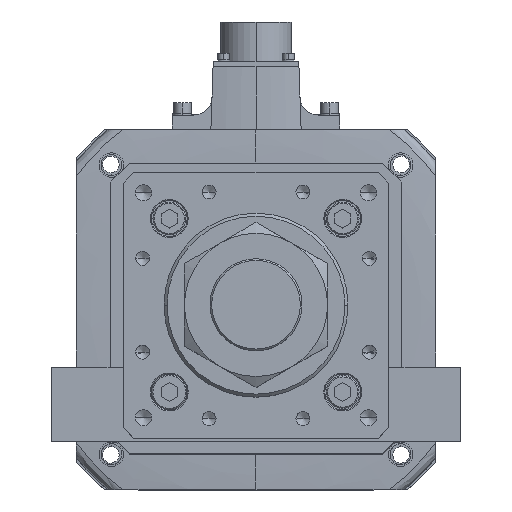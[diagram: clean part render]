
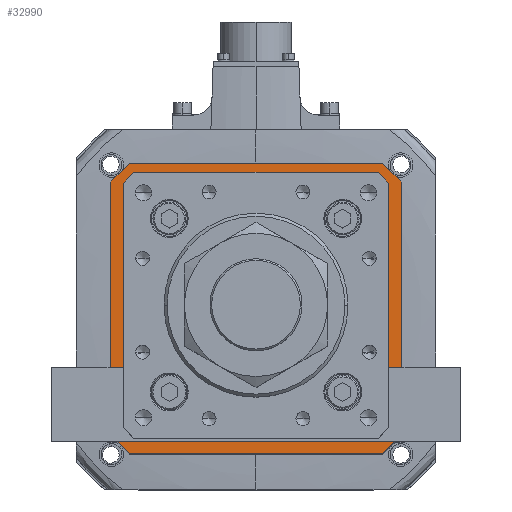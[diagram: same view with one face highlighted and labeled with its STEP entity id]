
A CAD part, top view. The second image highlights one B-rep face of the part: STEP entity #32990.
In plain terms, the highlighted planar face has unit normal (0, 0, 1).
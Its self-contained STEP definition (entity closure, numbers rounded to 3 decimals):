
#120 = VECTOR ( 'NONE', #2795, 1000. ) ;
#249 = DIRECTION ( 'NONE',  ( -0.707, -0.707, 0. ) ) ;
#910 = EDGE_CURVE ( 'NONE', #51259, #41335, #16077, .T. ) ;
#1837 = CARTESIAN_POINT ( 'NONE',  ( -62., -71., -142. ) ) ;
#2795 = DIRECTION ( 'NONE',  ( 0., -1., 0. ) ) ;
#2799 = VERTEX_POINT ( 'NONE', #30353 ) ;
#2827 = EDGE_CURVE ( 'NONE', #2799, #21133, #4464, .T. ) ;
#3158 = VECTOR ( 'NONE', #17133, 1000. ) ;
#3368 = ORIENTED_EDGE ( 'NONE', *, *, #25759, .F. ) ;
#3417 = LINE ( 'NONE', #41876, #4061 ) ;
#3501 = CARTESIAN_POINT ( 'NONE',  ( 60.896, 60.896, -142. ) ) ;
#4061 = VECTOR ( 'NONE', #46193, 1000. ) ;
#4102 = ORIENTED_EDGE ( 'NONE', *, *, #32423, .T. ) ;
#4359 = VERTEX_POINT ( 'NONE', #13631 ) ;
#4464 = LINE ( 'NONE', #38703, #13224 ) ;
#5958 = VECTOR ( 'NONE', #27710, 1000. ) ;
#6494 = VERTEX_POINT ( 'NONE', #39843 ) ;
#7726 = VERTEX_POINT ( 'NONE', #44391 ) ;
#7756 = DIRECTION ( 'NONE',  ( 0.707, 0.707, 0. ) ) ;
#8461 = LINE ( 'NONE', #20606, #32814 ) ;
#8659 = CARTESIAN_POINT ( 'NONE',  ( 62., 71., -142. ) ) ;
#9077 = CARTESIAN_POINT ( 'NONE',  ( 60.896, -60.896, -142. ) ) ;
#9518 = DIRECTION ( 'NONE',  ( 0., 0., 1. ) ) ;
#9858 = DIRECTION ( 'NONE',  ( 0.707, -0.707, 0. ) ) ;
#10055 = LINE ( 'NONE', #53864, #12054 ) ;
#11074 = EDGE_CURVE ( 'NONE', #26699, #2799, #3417, .T. ) ;
#11638 = CARTESIAN_POINT ( 'NONE',  ( 63., 0., -142. ) ) ;
#12012 = DIRECTION ( 'NONE',  ( 0.707, 0.707, 0. ) ) ;
#12054 = VECTOR ( 'NONE', #36939, 1000. ) ;
#12446 = LINE ( 'NONE', #39292, #33375 ) ;
#12713 = LINE ( 'NONE', #51266, #49214 ) ;
#13224 = VECTOR ( 'NONE', #21110, 1000. ) ;
#13631 = CARTESIAN_POINT ( 'NONE',  ( -63., -58.793, -142. ) ) ;
#13892 = ORIENTED_EDGE ( 'NONE', *, *, #36226, .F. ) ;
#15386 = ORIENTED_EDGE ( 'NONE', *, *, #24913, .T. ) ;
#16077 = LINE ( 'NONE', #3501, #35032 ) ;
#16432 = DIRECTION ( 'NONE',  ( -0.707, 0.707, 0. ) ) ;
#16693 = LINE ( 'NONE', #33474, #55173 ) ;
#17133 = DIRECTION ( 'NONE',  ( -1., 0., 0. ) ) ;
#17396 = CARTESIAN_POINT ( 'NONE',  ( 71., -62., -142. ) ) ;
#17755 = CARTESIAN_POINT ( 'NONE',  ( 58.793, -63., -142. ) ) ;
#18454 = ORIENTED_EDGE ( 'NONE', *, *, #28436, .F. ) ;
#18952 = CARTESIAN_POINT ( 'NONE',  ( 71., 62., -142. ) ) ;
#19502 = FACE_OUTER_BOUND ( 'NONE', #45431, .T. ) ;
#20606 = CARTESIAN_POINT ( 'NONE',  ( -60.896, -60.896, -142. ) ) ;
#21031 = EDGE_CURVE ( 'NONE', #37594, #26699, #40358, .T. ) ;
#21110 = DIRECTION ( 'NONE',  ( 0., 1., 0. ) ) ;
#21133 = VERTEX_POINT ( 'NONE', #50382 ) ;
#21235 = VERTEX_POINT ( 'NONE', #8659 ) ;
#21361 = VERTEX_POINT ( 'NONE', #17755 ) ;
#22201 = CARTESIAN_POINT ( 'NONE',  ( 63., 58.793, -142. ) ) ;
#22783 = EDGE_LOOP ( 'NONE', ( #23528, #22936, #15386, #51503, #43598, #24098, #4102, #31128 ) ) ;
#22936 = ORIENTED_EDGE ( 'NONE', *, *, #40271, .T. ) ;
#23528 = ORIENTED_EDGE ( 'NONE', *, *, #48372, .T. ) ;
#24098 = ORIENTED_EDGE ( 'NONE', *, *, #39569, .T. ) ;
#24913 = EDGE_CURVE ( 'NONE', #21361, #35288, #55956, .T. ) ;
#24957 = VECTOR ( 'NONE', #30255, 1000. ) ;
#25759 = EDGE_CURVE ( 'NONE', #21133, #7726, #16693, .T. ) ;
#26077 = VECTOR ( 'NONE', #12012, 1000. ) ;
#26607 = LINE ( 'NONE', #17396, #36764 ) ;
#26699 = VERTEX_POINT ( 'NONE', #1837 ) ;
#27278 = EDGE_CURVE ( 'NONE', #35288, #4359, #8461, .T. ) ;
#27710 = DIRECTION ( 'NONE',  ( 0., -1., 0. ) ) ;
#28406 = VERTEX_POINT ( 'NONE', #30191 ) ;
#28436 = EDGE_CURVE ( 'NONE', #7726, #21235, #12446, .T. ) ;
#30191 = CARTESIAN_POINT ( 'NONE',  ( 71., -62., -142. ) ) ;
#30255 = DIRECTION ( 'NONE',  ( -1., 0., 0. ) ) ;
#30343 = CARTESIAN_POINT ( 'NONE',  ( 58.793, 63., -142. ) ) ;
#30353 = CARTESIAN_POINT ( 'NONE',  ( -71., -62., -142. ) ) ;
#30591 = ORIENTED_EDGE ( 'NONE', *, *, #11074, .F. ) ;
#30695 = PLANE ( 'NONE',  #36958 ) ;
#30736 = CARTESIAN_POINT ( 'NONE',  ( 62., -71., -142. ) ) ;
#31128 = ORIENTED_EDGE ( 'NONE', *, *, #910, .T. ) ;
#31248 = VERTEX_POINT ( 'NONE', #35419 ) ;
#31411 = VERTEX_POINT ( 'NONE', #18952 ) ;
#31739 = ORIENTED_EDGE ( 'NONE', *, *, #2827, .F. ) ;
#32423 = EDGE_CURVE ( 'NONE', #6494, #51259, #10055, .T. ) ;
#32814 = VECTOR ( 'NONE', #16432, 1000. ) ;
#32990 = ADVANCED_FACE ( 'NONE', ( #48488, #19502 ), #30695, .T. ) ;
#33375 = VECTOR ( 'NONE', #35131, 1000. ) ;
#33474 = CARTESIAN_POINT ( 'NONE',  ( -62., 71., -142. ) ) ;
#34062 = CARTESIAN_POINT ( 'NONE',  ( 0., -63., -142. ) ) ;
#34908 = VERTEX_POINT ( 'NONE', #39533 ) ;
#35032 = VECTOR ( 'NONE', #46342, 1000. ) ;
#35131 = DIRECTION ( 'NONE',  ( 1., 0., 0. ) ) ;
#35288 = VERTEX_POINT ( 'NONE', #41676 ) ;
#35419 = CARTESIAN_POINT ( 'NONE',  ( -63., 58.793, -142. ) ) ;
#36226 = EDGE_CURVE ( 'NONE', #28406, #37594, #26607, .T. ) ;
#36764 = VECTOR ( 'NONE', #249, 1000. ) ;
#36939 = DIRECTION ( 'NONE',  ( 1., 0., 0. ) ) ;
#36958 = AXIS2_PLACEMENT_3D ( 'NONE', #48034, #9518, #44097 ) ;
#37574 = LINE ( 'NONE', #50473, #26077 ) ;
#37594 = VERTEX_POINT ( 'NONE', #51457 ) ;
#38031 = EDGE_CURVE ( 'NONE', #31411, #28406, #42366, .T. ) ;
#38682 = LINE ( 'NONE', #11638, #120 ) ;
#38703 = CARTESIAN_POINT ( 'NONE',  ( -71., 62., -142. ) ) ;
#39292 = CARTESIAN_POINT ( 'NONE',  ( 62., 71., -142. ) ) ;
#39339 = DIRECTION ( 'NONE',  ( -0.707, -0.707, 0. ) ) ;
#39533 = CARTESIAN_POINT ( 'NONE',  ( 63., -58.793, -142. ) ) ;
#39569 = EDGE_CURVE ( 'NONE', #31248, #6494, #37574, .T. ) ;
#39843 = CARTESIAN_POINT ( 'NONE',  ( -58.793, 63., -142. ) ) ;
#40271 = EDGE_CURVE ( 'NONE', #34908, #21361, #44934, .T. ) ;
#40358 = LINE ( 'NONE', #30736, #3158 ) ;
#41335 = VERTEX_POINT ( 'NONE', #22201 ) ;
#41676 = CARTESIAN_POINT ( 'NONE',  ( -58.793, -63., -142. ) ) ;
#41876 = CARTESIAN_POINT ( 'NONE',  ( -62., -71., -142. ) ) ;
#42366 = LINE ( 'NONE', #54073, #5958 ) ;
#43598 = ORIENTED_EDGE ( 'NONE', *, *, #54765, .T. ) ;
#43792 = ORIENTED_EDGE ( 'NONE', *, *, #38031, .F. ) ;
#44097 = DIRECTION ( 'NONE',  ( 1., 0., 0. ) ) ;
#44391 = CARTESIAN_POINT ( 'NONE',  ( -62., 71., -142. ) ) ;
#44431 = CARTESIAN_POINT ( 'NONE',  ( 71., 62., -142. ) ) ;
#44934 = LINE ( 'NONE', #9077, #48251 ) ;
#45313 = VECTOR ( 'NONE', #9858, 1000. ) ;
#45431 = EDGE_LOOP ( 'NONE', ( #18454, #3368, #31739, #30591, #47960, #13892, #43792, #46328 ) ) ;
#46193 = DIRECTION ( 'NONE',  ( -0.707, 0.707, 0. ) ) ;
#46328 = ORIENTED_EDGE ( 'NONE', *, *, #49286, .F. ) ;
#46342 = DIRECTION ( 'NONE',  ( 0.707, -0.707, 0. ) ) ;
#47157 = DIRECTION ( 'NONE',  ( 0., 1., 0. ) ) ;
#47960 = ORIENTED_EDGE ( 'NONE', *, *, #21031, .F. ) ;
#48006 = LINE ( 'NONE', #44431, #45313 ) ;
#48034 = CARTESIAN_POINT ( 'NONE',  ( 0., 0., -142. ) ) ;
#48251 = VECTOR ( 'NONE', #39339, 1000. ) ;
#48372 = EDGE_CURVE ( 'NONE', #41335, #34908, #38682, .T. ) ;
#48488 = FACE_BOUND ( 'NONE', #22783, .T. ) ;
#49214 = VECTOR ( 'NONE', #47157, 1000. ) ;
#49286 = EDGE_CURVE ( 'NONE', #21235, #31411, #48006, .T. ) ;
#50382 = CARTESIAN_POINT ( 'NONE',  ( -71., 62., -142. ) ) ;
#50473 = CARTESIAN_POINT ( 'NONE',  ( -60.896, 60.896, -142. ) ) ;
#51259 = VERTEX_POINT ( 'NONE', #30343 ) ;
#51266 = CARTESIAN_POINT ( 'NONE',  ( -63., 0., -142. ) ) ;
#51457 = CARTESIAN_POINT ( 'NONE',  ( 62., -71., -142. ) ) ;
#51503 = ORIENTED_EDGE ( 'NONE', *, *, #27278, .T. ) ;
#53864 = CARTESIAN_POINT ( 'NONE',  ( 0., 63., -142. ) ) ;
#54073 = CARTESIAN_POINT ( 'NONE',  ( 71., 62., -142. ) ) ;
#54765 = EDGE_CURVE ( 'NONE', #4359, #31248, #12713, .T. ) ;
#55173 = VECTOR ( 'NONE', #7756, 1000. ) ;
#55956 = LINE ( 'NONE', #34062, #24957 ) ;
